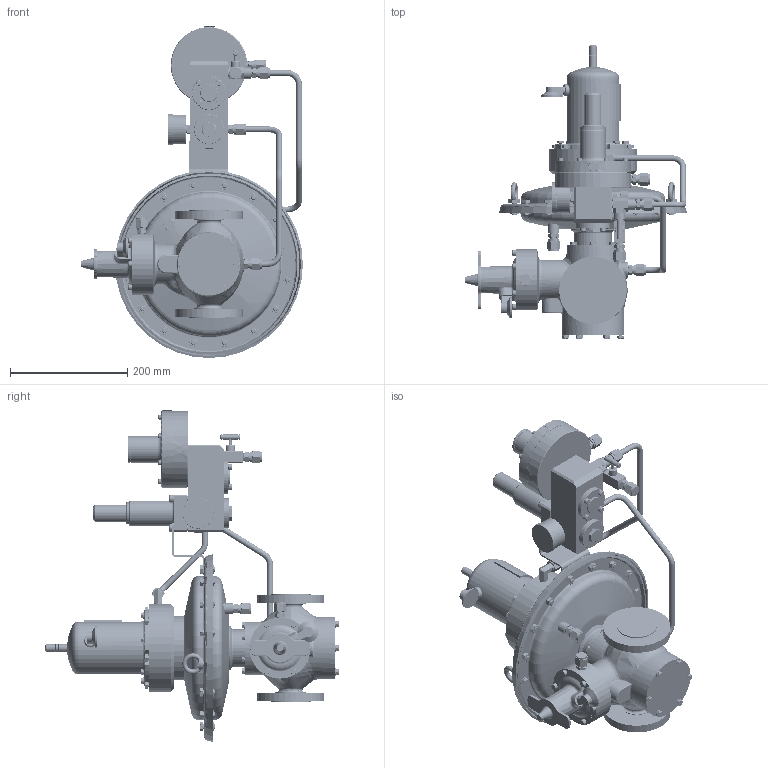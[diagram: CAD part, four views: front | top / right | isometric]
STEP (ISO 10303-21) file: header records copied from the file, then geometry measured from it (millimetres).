
FILE_DESCRIPTION((''),'2;1');
FILE_NAME('222040R0_BRISE_PLUS-1_SW0001','2019-02-12T',('jjunior'),(''),'PRO/ENGINEER BY PARAMETRIC TECHNOLOGY CORPORATION, 2010160','PRO/ENGINEER BY PARAMETRIC TECHNOLOGY CORPORATION, 2010160','');
FILE_SCHEMA(('CONFIG_CONTROL_DESIGN'));
Length unit declared in the file: millimetre
Products named in the file (1): 222040R0_BRISE_PLUS-1_SW0001
Bounding box: 377.61 x 499.05 x 565.23 mm (x, y, z)
Volume: 4312231.6 mm3; surface area: 1194519.3 mm2
Topology: 2 solids, 5 shells, 4141 faces, 9482 edges, 5761 vertices
Faces by surface type: plane 1332, cylinder 1087, cone 1016, torus 425, bspline 251, sphere 28, extrusion 2
Entity records: 167670 total; most frequent: CARTESIAN_POINT 76897, ORIENTED_EDGE 18874, DIRECTION 18746, EDGE_CURVE 9437, AXIS2_PLACEMENT_3D 7726, VERTEX_POINT 5759, EDGE_LOOP 4700, FACE_OUTER_BOUND 4141
